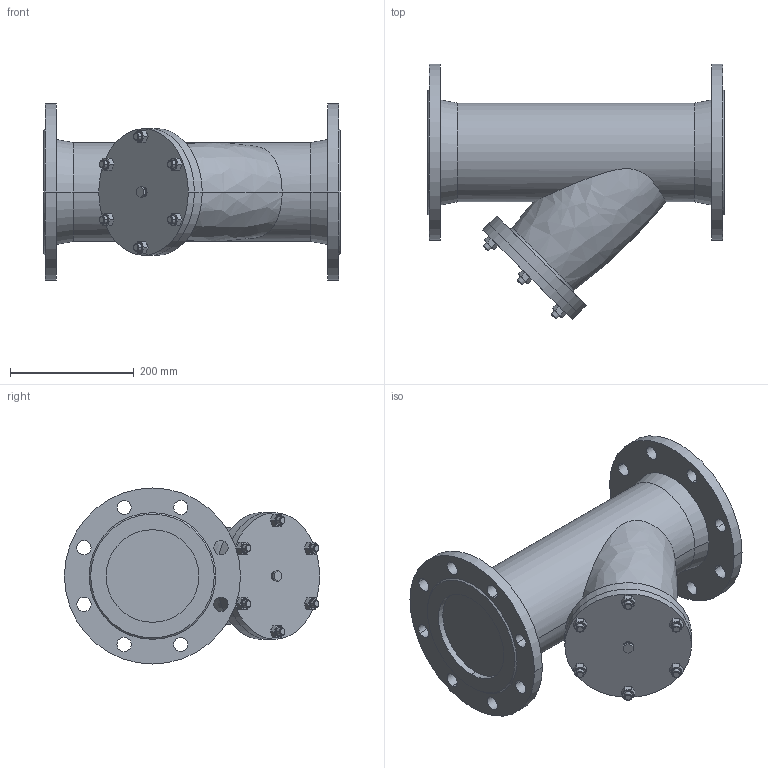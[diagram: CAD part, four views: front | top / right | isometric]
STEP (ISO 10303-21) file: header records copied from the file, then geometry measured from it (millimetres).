
FILE_DESCRIPTION((''),'2;1');
FILE_NAME('YS-16F_SB_ASM','2026-04-27T',('AMD'),(''),'PRO/ENGINEER BY PARAMETRIC TECHNOLOGY CORPORATION, 2008020','PRO/ENGINEER BY PARAMETRIC TECHNOLOGY CORPORATION, 2008020','');
FILE_SCHEMA(('CONFIG_CONTROL_DESIGN'));
Length unit declared in the file: millimetre
Products named in the file (7): YS-16F_KORPUS; YS-16F_KRISKA; YS-16F_PROKLADKA_2; YS-16F_PROBKA; YS-16F_SHPILKA; G-5915-M12; YS-16F_SB_ASM
Assembly tree (16 placements, depth 2):
  YS-16F_SB_ASM
    YS-16F_KORPUS
    YS-16F_KRISKA
    YS-16F_PROKLADKA_2
    YS-16F_PROBKA
    YS-16F_SHPILKA  x6
    G-5915-M12  x6
Bounding box: 480 x 412.97 x 285 mm (x, y, z)
Volume: 14773803.7 mm3; surface area: 709330.5 mm2
Topology: 16 solids, 28 shells, 291 faces, 697 edges, 446 vertices
Faces by surface type: cylinder 124, plane 83, cone 80, bspline 2, torus 2
Entity records: 5187 total; most frequent: CARTESIAN_POINT 1042, DIRECTION 939, ORIENTED_EDGE 726, AXIS2_PLACEMENT_3D 400, EDGE_CURVE 377, VERTEX_POINT 246, CIRCLE 224, EDGE_LOOP 219
